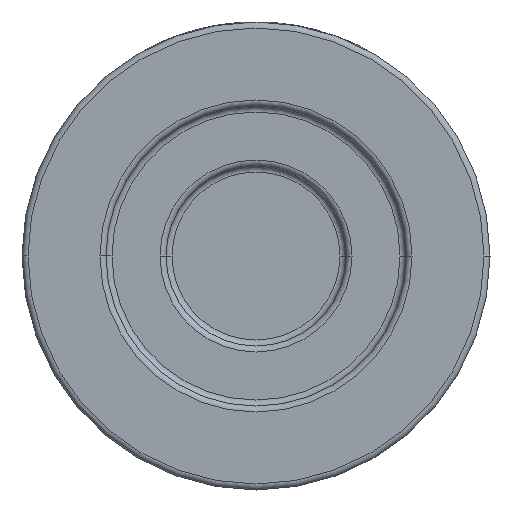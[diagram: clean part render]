
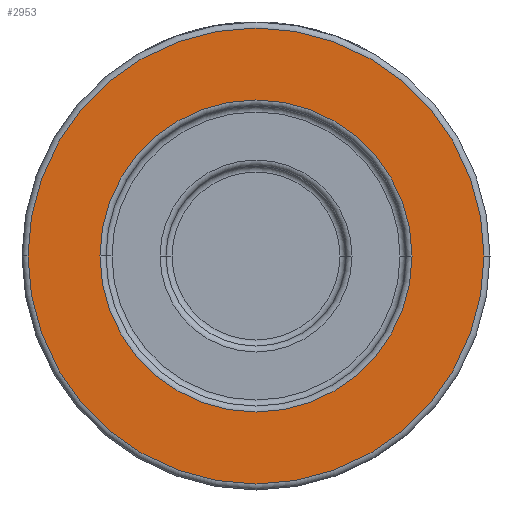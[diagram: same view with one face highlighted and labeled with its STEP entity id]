
A CAD part, front view. The second image highlights one B-rep face of the part: STEP entity #2953.
In plain terms, the highlighted planar face has unit normal (0, -1, 0).
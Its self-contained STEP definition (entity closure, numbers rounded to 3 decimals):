
#135 = AXIS2_PLACEMENT_3D ( 'NONE', #2323, #1686, #1276 ) ;
#287 = DIRECTION ( 'NONE',  ( 0., -1., 0. ) ) ;
#298 = EDGE_CURVE ( 'NONE', #1545, #1173, #2956, .T. ) ;
#327 = DIRECTION ( 'NONE',  ( 1., 0., 0. ) ) ;
#550 = ORIENTED_EDGE ( 'NONE', *, *, #3276, .T. ) ;
#589 = CARTESIAN_POINT ( 'NONE',  ( 0., -35., 0. ) ) ;
#595 = CARTESIAN_POINT ( 'NONE',  ( 26., -35., 0. ) ) ;
#728 = CARTESIAN_POINT ( 'NONE',  ( 0., -35., 0. ) ) ;
#775 = EDGE_LOOP ( 'NONE', ( #2923, #1437 ) ) ;
#895 = EDGE_CURVE ( 'NONE', #4707, #2859, #3468, .T. ) ;
#998 = DIRECTION ( 'NONE',  ( 0., -1., 0. ) ) ;
#1079 = CARTESIAN_POINT ( 'NONE',  ( 39., -35., 0. ) ) ;
#1173 = VERTEX_POINT ( 'NONE', #2805 ) ;
#1276 = DIRECTION ( 'NONE',  ( 1., 0., 0. ) ) ;
#1365 = CIRCLE ( 'NONE', #4006, 38. ) ;
#1437 = ORIENTED_EDGE ( 'NONE', *, *, #3451, .T. ) ;
#1545 = VERTEX_POINT ( 'NONE', #2025 ) ;
#1670 = AXIS2_PLACEMENT_3D ( 'NONE', #2460, #287, #327 ) ;
#1686 = DIRECTION ( 'NONE',  ( 0., 1., 0. ) ) ;
#1755 = FACE_BOUND ( 'NONE', #3240, .T. ) ;
#2025 = CARTESIAN_POINT ( 'NONE',  ( 38., -35., 0. ) ) ;
#2323 = CARTESIAN_POINT ( 'NONE',  ( 0., -35., 0. ) ) ;
#2399 = DIRECTION ( 'NONE',  ( 1., 0., 0. ) ) ;
#2460 = CARTESIAN_POINT ( 'NONE',  ( 0., -35., 0. ) ) ;
#2498 = CIRCLE ( 'NONE', #135, 26. ) ;
#2805 = CARTESIAN_POINT ( 'NONE',  ( -38., -35., 0. ) ) ;
#2859 = VERTEX_POINT ( 'NONE', #595 ) ;
#2923 = ORIENTED_EDGE ( 'NONE', *, *, #298, .T. ) ;
#2953 = ADVANCED_FACE ( 'NONE', ( #1755, #3916 ), #3207, .T. ) ;
#2956 = CIRCLE ( 'NONE', #1670, 38. ) ;
#3109 = AXIS2_PLACEMENT_3D ( 'NONE', #1079, #998, #4672 ) ;
#3207 = PLANE ( 'NONE',  #3109 ) ;
#3233 = AXIS2_PLACEMENT_3D ( 'NONE', #728, #3250, #3275 ) ;
#3240 = EDGE_LOOP ( 'NONE', ( #550, #3344 ) ) ;
#3250 = DIRECTION ( 'NONE',  ( 0., 1., 0. ) ) ;
#3275 = DIRECTION ( 'NONE',  ( 1., 0., 0. ) ) ;
#3276 = EDGE_CURVE ( 'NONE', #2859, #4707, #2498, .T. ) ;
#3344 = ORIENTED_EDGE ( 'NONE', *, *, #895, .T. ) ;
#3368 = CARTESIAN_POINT ( 'NONE',  ( -26., -35., 0. ) ) ;
#3451 = EDGE_CURVE ( 'NONE', #1173, #1545, #1365, .T. ) ;
#3468 = CIRCLE ( 'NONE', #3233, 26. ) ;
#3916 = FACE_OUTER_BOUND ( 'NONE', #775, .T. ) ;
#4006 = AXIS2_PLACEMENT_3D ( 'NONE', #589, #4178, #2399 ) ;
#4178 = DIRECTION ( 'NONE',  ( 0., -1., 0. ) ) ;
#4672 = DIRECTION ( 'NONE',  ( 1., 0., 0. ) ) ;
#4707 = VERTEX_POINT ( 'NONE', #3368 ) ;
